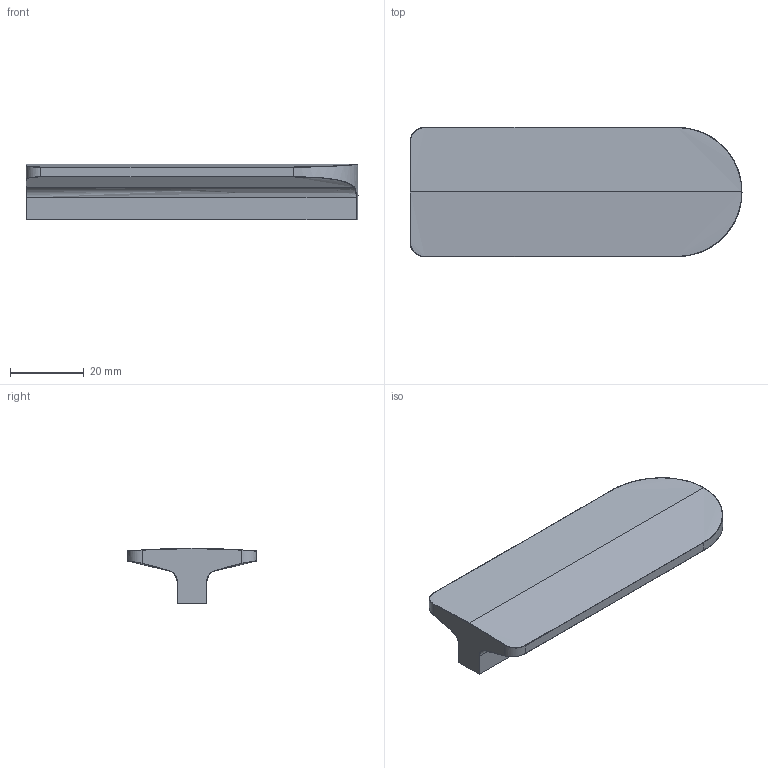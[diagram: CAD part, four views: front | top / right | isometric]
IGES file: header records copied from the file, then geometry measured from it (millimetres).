
Start section: C
Global section: file name: 8312-90RE3.igs; native system: By Siemens PLM Incorporated; preprocessor: XPlus GENERIC/IGES 16.0.42; author: Author; organization: Title; date: 20220504.142541; units: millimetre
Bounding box: 90 x 35 x 15 mm (x, y, z)
Surface area: 8599.1 mm2 (no closed solid volume)
Topology: 0 solids, 0 shells, 42 faces, 194 edges, 194 vertices
Faces by surface type: bspline 42
